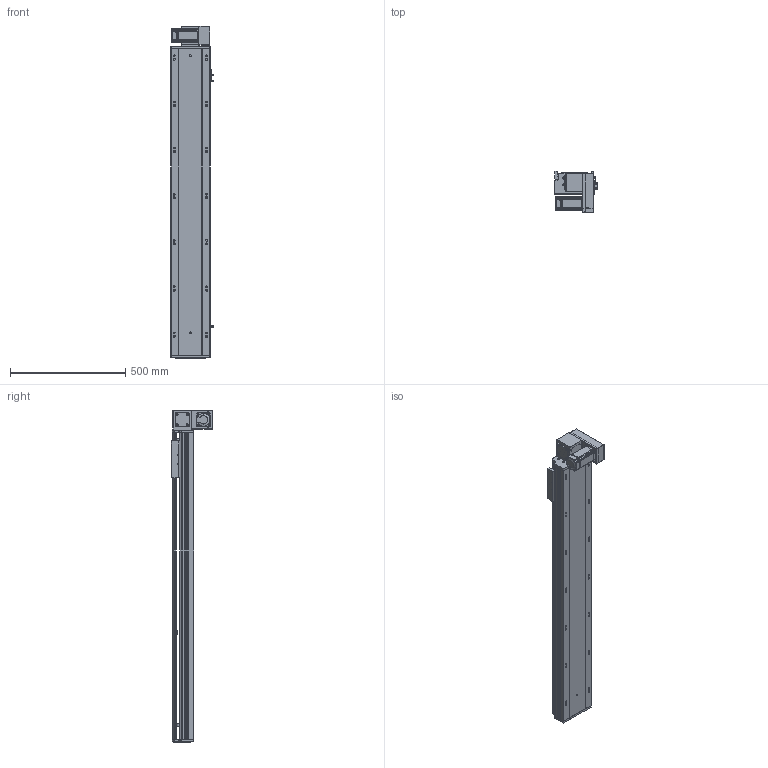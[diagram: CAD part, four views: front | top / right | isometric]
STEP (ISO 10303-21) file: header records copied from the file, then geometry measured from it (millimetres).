
FILE_DESCRIPTION (( 'STEP AP203' ), '1' );
FILE_NAME ('RY170-T-300-DR-P400W.SLDASM_1050.step', '2021-03-01T08:22:18', ( '盈信电脑' ), ( '东莞市道滘镇水果街19号' ), 'SwSTEP 2.0', 'SolidWorks 2012', '' );
FILE_SCHEMA (( 'CONFIG_CONTROL_DESIGN' ));
Length unit declared in the file: millimetre
Products named in the file (19): RY170-T肮祭湍揤踡輸1; RY120-T主同步轮轴承压盖; RY170-T肮祭湍揤踡輸2; RY170-T肮祭謫裔啣; RY170肮祭謫萇儂欶; RY170同步轮电机安装板(400W); RY170翋肮祭謫釱; RY170外置感应片(200共用）; RY170肮祭謫ヶ裔啣; RY170肮祭湍臏賑輸; RY170綴裔啣; 覜茼ん672; RY170-T-300肮祭謫倰第裔啣-DR_1050; RY170-T-300肮祭謫倰第菁釱-DR_1050; RY170-T-300-DR-P400W.SLDASM_1050; 15; RY170-T-呴雄粣揤踡啣; 滅袉蝶18-10; RY170-T蹟翐M4
Assembly tree (23 placements, depth 2):
  RY170-T-300-DR-P400W.SLDASM_1050
    RY170-T-300肮祭謫倰第菁釱-DR_1050
    RY170肮祭湍臏賑輸
    RY170-T-300肮祭謫倰第裔啣-DR_1050
    RY170綴裔啣
    覜茼ん672  x3
    RY170外置感应片(200共用）
    RY170肮祭謫ヶ裔啣
    RY170翋肮祭謫釱
    RY170同步轮电机安装板(400W)
    RY170肮祭謫萇儂欶
    RY170-T肮祭湍揤踡輸1  x2
    RY170-T肮祭湍揤踡輸2  x2
    RY120-T主同步轮轴承压盖
    RY170-T肮祭謫裔啣
    RY170-T蹟翐M4
    滅袉蝶18-10  x2
    RY170-T-呴雄粣揤踡啣
    15
Bounding box: 183.7 x 178 x 1438 mm (x, y, z)
Volume: 7129564.8 mm3; surface area: 2418044.3 mm2
Topology: 23 solids, 23 shells, 2762 faces, 7638 edges, 4897 vertices
Faces by surface type: plane 1264, cylinder 1224, cone 244, bspline 30
Entity records: 81933 total; most frequent: CARTESIAN_POINT 17991, ORIENTED_EDGE 12968, DIRECTION 12836, EDGE_CURVE 6484, AXIS2_PLACEMENT_3D 4512, VERTEX_POINT 4253, VECTOR 3812, LINE 3812
